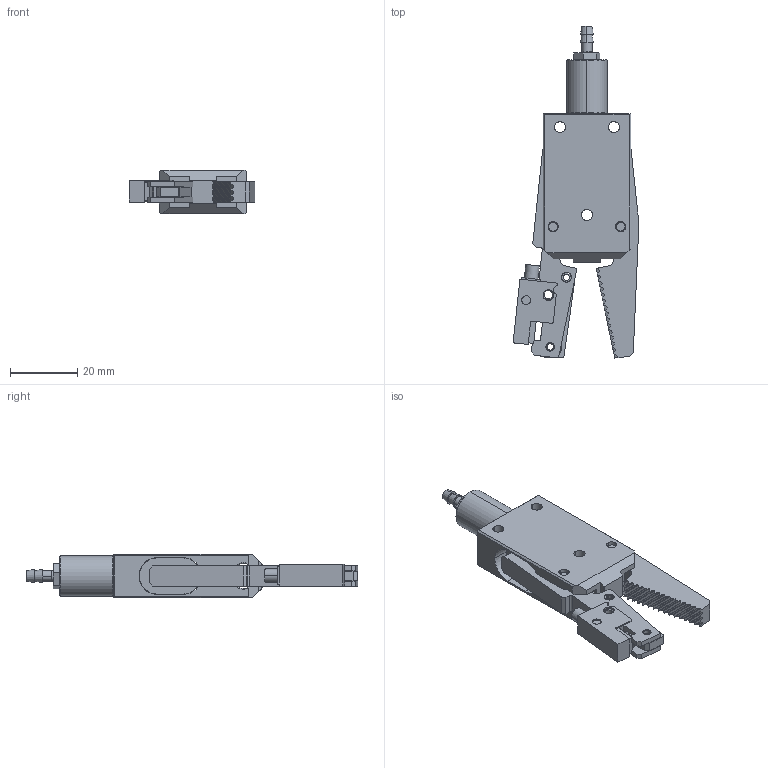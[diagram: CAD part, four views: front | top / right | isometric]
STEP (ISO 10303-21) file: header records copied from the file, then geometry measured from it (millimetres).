
FILE_DESCRIPTION (( 'STEP AP214' ), '1' );
FILE_NAME ('GRM12B-CP.STEP', '2019-11-12T02:54:00', ( '微软用户' ), ( '微软中国' ), 'SwSTEP 2.0', 'SolidWorks 2016', '' );
FILE_SCHEMA (( 'AUTOMOTIVE_DESIGN' ));
Length unit declared in the file: millimetre
Products named in the file (1): GRM12B-CP
Bounding box: 37.29 x 98.41 x 13 mm (x, y, z)
Volume: 16995.4 mm3; surface area: 14846.9 mm2
Topology: 13 solids, 13 shells, 479 faces, 1275 edges, 829 vertices
Faces by surface type: plane 289, cylinder 136, cone 32, bspline 22
Entity records: 21161 total; most frequent: CARTESIAN_POINT 3658, ORIENTED_EDGE 2542, DIRECTION 2466, EDGE_CURVE 1271, VECTOR 882, LINE 882, VERTEX_POINT 829, AXIS2_PLACEMENT_3D 792
